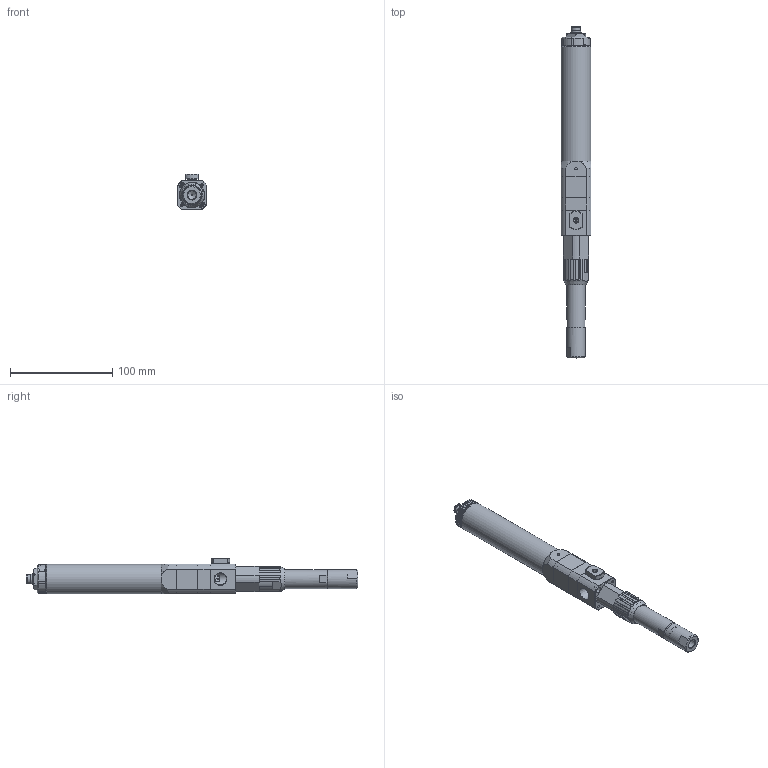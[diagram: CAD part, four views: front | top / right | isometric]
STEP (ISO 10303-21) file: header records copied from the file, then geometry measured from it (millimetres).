
FILE_DESCRIPTION (( 'STEP AP214' ), '1' );
FILE_NAME ('PCP-1500A-14.STEP', '2024-10-11T11:38:24', ( '' ), ( '' ), 'SwSTEP 2.0', 'SolidWorks 2024', '' );
FILE_SCHEMA (( 'AUTOMOTIVE_DESIGN' ));
Length unit declared in the file: millimetre
Products named in the file (1): PCP-1500A-14
Bounding box: 29 x 324.5 x 35 mm (x, y, z)
Volume: 88053.4 mm3; surface area: 82429.6 mm2
Topology: 28 solids, 28 shells, 1540 faces, 3984 edges, 2590 vertices
Faces by surface type: plane 916, cylinder 335, cone 182, bspline 60, sphere 32, torus 15
Full cylindrical faces by diameter (mm): 0.6 x1, 0.8 x4, 1 x5, 1.5 x2, 2 x1, 2.5 x12, 3 x2, 3.5 x15, 4 x1, 4.2 x1, 4.8 x1, 5 x1, 5.2 x1, 5.8 x7, 6 x7, 6.6 x3, 6.8 x1, 8 x2, 8.178 x1, 8.5 x1, 9 x4, 9.6 x2, 10 x3, 10.008 x2, 10.8 x2, 11 x1, 11.2 x1, 12 x1, 12.05 x4, 12.158 x4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
Entity records: 47946 total; most frequent: CARTESIAN_POINT 14539, ORIENTED_EDGE 6832, DIRECTION 6494, EDGE_CURVE 3416, AXIS2_PLACEMENT_3D 2591, VERTEX_POINT 2401, EDGE_LOOP 2103, FACE_OUTER_BOUND 1753
